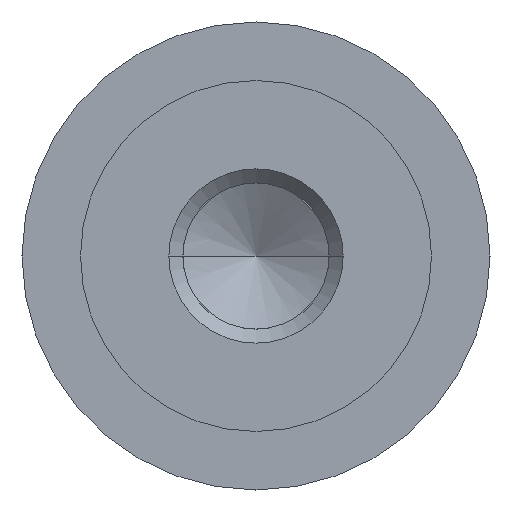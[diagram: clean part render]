
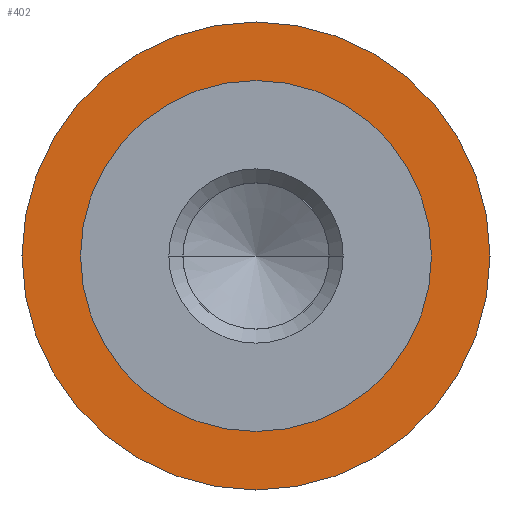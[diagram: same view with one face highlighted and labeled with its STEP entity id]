
A CAD part, left-side view. The second image highlights one B-rep face of the part: STEP entity #402.
In plain terms, the highlighted planar face has unit normal (-1, 0, 0).
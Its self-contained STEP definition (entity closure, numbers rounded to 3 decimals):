
#41 = DIRECTION ( 'NONE',  ( 1., 0., 0. ) ) ;
#54 = DIRECTION ( 'NONE',  ( 0., 0., 1. ) ) ;
#74 = CARTESIAN_POINT ( 'NONE',  ( -6.5, 0., -3. ) ) ;
#92 = DIRECTION ( 'NONE',  ( -1., 0., 0. ) ) ;
#104 = VERTEX_POINT ( 'NONE', #302 ) ;
#107 = EDGE_CURVE ( 'NONE', #104, #416, #530, .T. ) ;
#113 = DIRECTION ( 'NONE',  ( -1., 0., 0. ) ) ;
#120 = CARTESIAN_POINT ( 'NONE',  ( -6.5, 3., 0. ) ) ;
#164 = EDGE_LOOP ( 'NONE', ( #735, #388 ) ) ;
#167 = CIRCLE ( 'NONE', #657, 4. ) ;
#172 = FACE_BOUND ( 'NONE', #381, .T. ) ;
#178 = AXIS2_PLACEMENT_3D ( 'NONE', #120, #41, #593 ) ;
#182 = CARTESIAN_POINT ( 'NONE',  ( -6.5, 0., 4. ) ) ;
#237 = DIRECTION ( 'NONE',  ( -1., 0., 0. ) ) ;
#253 = ORIENTED_EDGE ( 'NONE', *, *, #320, .F. ) ;
#292 = CARTESIAN_POINT ( 'NONE',  ( -6.5, 0., 3. ) ) ;
#300 = FACE_OUTER_BOUND ( 'NONE', #164, .T. ) ;
#302 = CARTESIAN_POINT ( 'NONE',  ( -6.5, 0., -4. ) ) ;
#320 = EDGE_CURVE ( 'NONE', #771, #647, #596, .T. ) ;
#353 = CARTESIAN_POINT ( 'NONE',  ( -6.5, 0., 0. ) ) ;
#375 = AXIS2_PLACEMENT_3D ( 'NONE', #423, #237, #656 ) ;
#377 = AXIS2_PLACEMENT_3D ( 'NONE', #353, #113, #589 ) ;
#381 = EDGE_LOOP ( 'NONE', ( #253, #392 ) ) ;
#388 = ORIENTED_EDGE ( 'NONE', *, *, #107, .T. ) ;
#392 = ORIENTED_EDGE ( 'NONE', *, *, #742, .F. ) ;
#402 = ADVANCED_FACE ( 'NONE', ( #172, #300 ), #727, .F. ) ;
#416 = VERTEX_POINT ( 'NONE', #182 ) ;
#423 = CARTESIAN_POINT ( 'NONE',  ( -6.5, 0., 0. ) ) ;
#442 = EDGE_CURVE ( 'NONE', #416, #104, #167, .T. ) ;
#481 = CARTESIAN_POINT ( 'NONE',  ( -6.5, 0., 0. ) ) ;
#530 = CIRCLE ( 'NONE', #375, 4. ) ;
#558 = AXIS2_PLACEMENT_3D ( 'NONE', #573, #92, #627 ) ;
#573 = CARTESIAN_POINT ( 'NONE',  ( -6.5, 0., 0. ) ) ;
#589 = DIRECTION ( 'NONE',  ( 0., 0., 1. ) ) ;
#593 = DIRECTION ( 'NONE',  ( 0., 0., -1. ) ) ;
#596 = CIRCLE ( 'NONE', #558, 3. ) ;
#627 = DIRECTION ( 'NONE',  ( 0., 0., 1. ) ) ;
#647 = VERTEX_POINT ( 'NONE', #74 ) ;
#656 = DIRECTION ( 'NONE',  ( 0., 0., 1. ) ) ;
#657 = AXIS2_PLACEMENT_3D ( 'NONE', #481, #777, #54 ) ;
#659 = CIRCLE ( 'NONE', #377, 3. ) ;
#727 = PLANE ( 'NONE',  #178 ) ;
#735 = ORIENTED_EDGE ( 'NONE', *, *, #442, .T. ) ;
#742 = EDGE_CURVE ( 'NONE', #647, #771, #659, .T. ) ;
#771 = VERTEX_POINT ( 'NONE', #292 ) ;
#777 = DIRECTION ( 'NONE',  ( -1., 0., 0. ) ) ;
